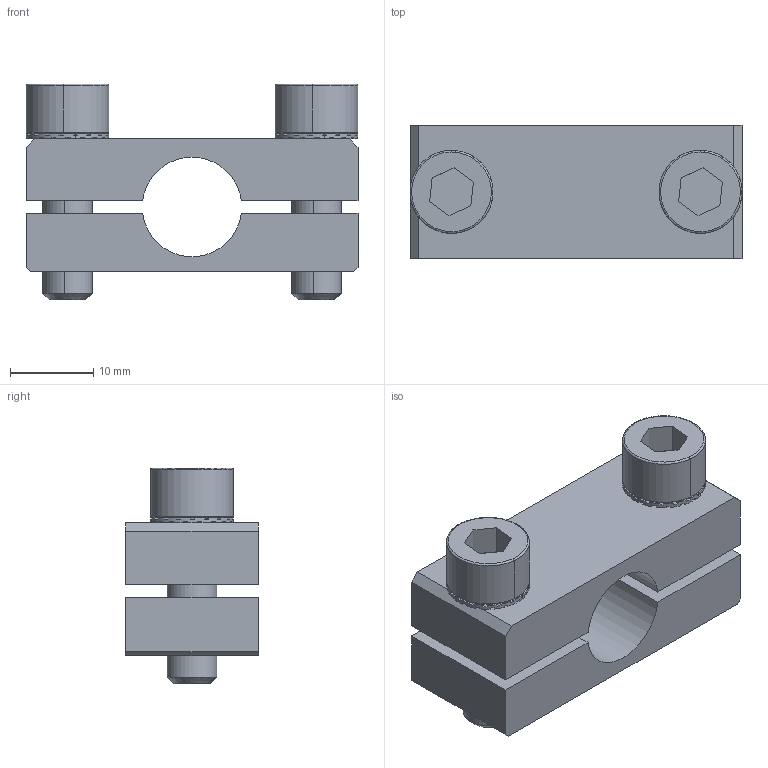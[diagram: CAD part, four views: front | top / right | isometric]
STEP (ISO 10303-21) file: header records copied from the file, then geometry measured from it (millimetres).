
FILE_DESCRIPTION (( 'STEP AP214' ), '1' );
FILE_NAME ('SMBT6-12.STEP', '2019-11-06T07:19:56', ( '微软用户' ), ( '微软中国' ), 'SwSTEP 2.0', 'SolidWorks 2016', '' );
FILE_SCHEMA (( 'AUTOMOTIVE_DESIGN' ));
Length unit declared in the file: millimetre
Products named in the file (1): SMBT6-12
Bounding box: 40 x 16 x 26 mm (x, y, z)
Volume: 8728.8 mm3; surface area: 6296.8 mm2
Topology: 6 solids, 6 shells, 365 faces, 1051 edges, 698 vertices
Faces by surface type: plane 326, cylinder 27, cone 8, bspline 4
Entity records: 16217 total; most frequent: CARTESIAN_POINT 2199, DIRECTION 2121, ORIENTED_EDGE 2102, EDGE_CURVE 1051, AXIS2_PLACEMENT_3D 716, VERTEX_POINT 698, VECTOR 689, LINE 689
